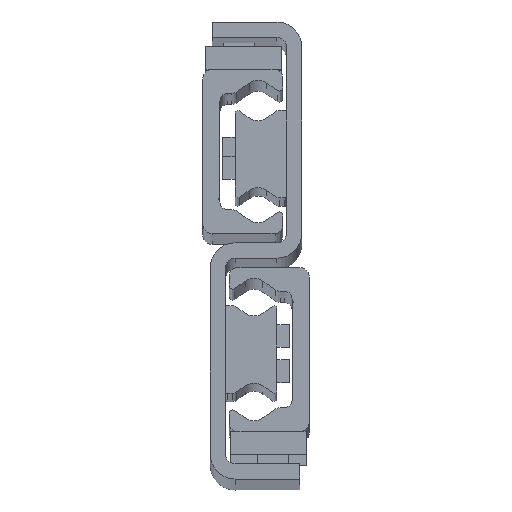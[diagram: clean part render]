
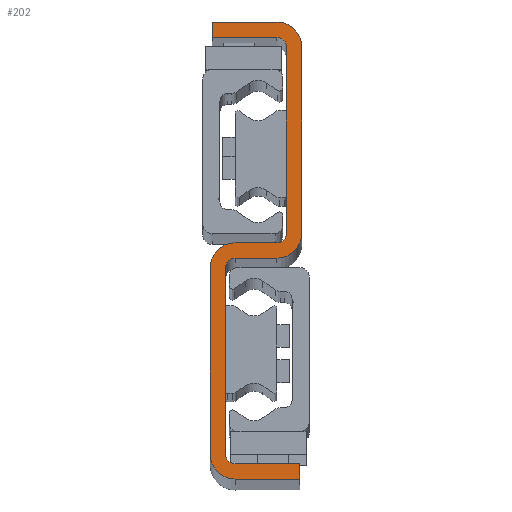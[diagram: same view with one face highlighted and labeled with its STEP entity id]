
A CAD part, top view. The second image highlights one B-rep face of the part: STEP entity #202.
In plain terms, the highlighted planar face has unit normal (0, 0, 1).
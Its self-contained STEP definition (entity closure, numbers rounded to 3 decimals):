
#202=ADVANCED_FACE('',(#729),#730,.T.);
#729=FACE_OUTER_BOUND('',#1599,.T.);
#730=PLANE('',#1600);
#1599=EDGE_LOOP('',(#3165,#3166,#3167,#3168,#3169,#3170,#3171,#3172,#3173,#3174,#3175,#3176,#3177,#3178,#3179,#3180,#3181,#3182,#3183,#3184));
#1600=AXIS2_PLACEMENT_3D('',#3185,#3186,#3187);
#3165=ORIENTED_EDGE('',*,*,#5605,.F.);
#3166=ORIENTED_EDGE('',*,*,#5663,.F.);
#3167=ORIENTED_EDGE('',*,*,#5660,.F.);
#3168=ORIENTED_EDGE('',*,*,#5657,.F.);
#3169=ORIENTED_EDGE('',*,*,#5654,.F.);
#3170=ORIENTED_EDGE('',*,*,#5651,.F.);
#3171=ORIENTED_EDGE('',*,*,#5648,.F.);
#3172=ORIENTED_EDGE('',*,*,#5645,.F.);
#3173=ORIENTED_EDGE('',*,*,#5642,.F.);
#3174=ORIENTED_EDGE('',*,*,#5639,.F.);
#3175=ORIENTED_EDGE('',*,*,#5636,.F.);
#3176=ORIENTED_EDGE('',*,*,#5633,.F.);
#3177=ORIENTED_EDGE('',*,*,#5630,.F.);
#3178=ORIENTED_EDGE('',*,*,#5627,.F.);
#3179=ORIENTED_EDGE('',*,*,#5624,.F.);
#3180=ORIENTED_EDGE('',*,*,#5621,.F.);
#3181=ORIENTED_EDGE('',*,*,#5618,.F.);
#3182=ORIENTED_EDGE('',*,*,#5615,.F.);
#3183=ORIENTED_EDGE('',*,*,#5612,.F.);
#3184=ORIENTED_EDGE('',*,*,#5609,.F.);
#3185=CARTESIAN_POINT('',(-14.,26.,1650.0));
#3186=DIRECTION('',(0.0,0.0,1.0));
#3187=DIRECTION('',(1.0,0.0,0.0));
#5605=EDGE_CURVE('',#6783,#6784,#6785,.T.);
#5609=EDGE_CURVE('',#6784,#6791,#6792,.T.);
#5612=EDGE_CURVE('',#6791,#6796,#6797,.T.);
#5615=EDGE_CURVE('',#6796,#6801,#6802,.T.);
#5618=EDGE_CURVE('',#6801,#6806,#6807,.T.);
#5621=EDGE_CURVE('',#6806,#6811,#6812,.T.);
#5624=EDGE_CURVE('',#6811,#6816,#6817,.T.);
#5627=EDGE_CURVE('',#6816,#6821,#6822,.T.);
#5630=EDGE_CURVE('',#6821,#6826,#6827,.T.);
#5633=EDGE_CURVE('',#6826,#6831,#6832,.T.);
#5636=EDGE_CURVE('',#6831,#6836,#6837,.T.);
#5639=EDGE_CURVE('',#6836,#6841,#6842,.T.);
#5642=EDGE_CURVE('',#6841,#6846,#6847,.T.);
#5645=EDGE_CURVE('',#6846,#6851,#6852,.T.);
#5648=EDGE_CURVE('',#6851,#6856,#6857,.T.);
#5651=EDGE_CURVE('',#6856,#6861,#6862,.T.);
#5654=EDGE_CURVE('',#6861,#6866,#6867,.T.);
#5657=EDGE_CURVE('',#6866,#6871,#6872,.T.);
#5660=EDGE_CURVE('',#6871,#6876,#6877,.T.);
#5663=EDGE_CURVE('',#6876,#6783,#6881,.T.);
#6783=VERTEX_POINT('',#8617);
#6784=VERTEX_POINT('',#8618);
#6785=LINE('',#8619,#8620);
#6791=VERTEX_POINT('',#8629);
#6792=CIRCLE('',#8630,2.5);
#6796=VERTEX_POINT('',#8635);
#6797=LINE('',#8636,#8637);
#6801=VERTEX_POINT('',#8643);
#6802=CIRCLE('',#8644,2.5);
#6806=VERTEX_POINT('',#8649);
#6807=LINE('',#8650,#8651);
#6811=VERTEX_POINT('',#8657);
#6812=LINE('',#8658,#8659);
#6816=VERTEX_POINT('',#8665);
#6817=LINE('',#8666,#8667);
#6821=VERTEX_POINT('',#8673);
#6822=CIRCLE('',#8674,6.5);
#6826=VERTEX_POINT('',#8679);
#6827=LINE('',#8680,#8681);
#6831=VERTEX_POINT('',#8687);
#6832=CIRCLE('',#8688,6.5);
#6836=VERTEX_POINT('',#8693);
#6837=LINE('',#8694,#8695);
#6841=VERTEX_POINT('',#8701);
#6842=CIRCLE('',#8702,2.5);
#6846=VERTEX_POINT('',#8707);
#6847=LINE('',#8708,#8709);
#6851=VERTEX_POINT('',#8715);
#6852=CIRCLE('',#8716,2.5);
#6856=VERTEX_POINT('',#8721);
#6857=LINE('',#8722,#8723);
#6861=VERTEX_POINT('',#8729);
#6862=LINE('',#8730,#8731);
#6866=VERTEX_POINT('',#8737);
#6867=LINE('',#8738,#8739);
#6871=VERTEX_POINT('',#8745);
#6872=CIRCLE('',#8746,6.5);
#6876=VERTEX_POINT('',#8751);
#6877=LINE('',#8752,#8753);
#6881=CIRCLE('',#8759,6.5);
#8617=CARTESIAN_POINT('',(-8.5,24.,1650.0));
#8618=CARTESIAN_POINT('',(-19.5,24.,1650.0));
#8619=CARTESIAN_POINT('',(-8.5,24.,1650.0));
#8620=VECTOR('',#10625,1.0);
#8629=CARTESIAN_POINT('',(-22.,21.5,1650.0));
#8630=AXIS2_PLACEMENT_3D('',#10629,#10630,#10631);
#8635=CARTESIAN_POINT('',(-22.,-27.5,1650.0));
#8636=CARTESIAN_POINT('',(-22.,-27.5,1650.0));
#8637=VECTOR('',#10636,1.0);
#8643=CARTESIAN_POINT('',(-19.5,-30.,1650.0));
#8644=AXIS2_PLACEMENT_3D('',#10639,#10640,#10641);
#8649=CARTESIAN_POINT('',(-2.5,-30.,1650.0));
#8650=CARTESIAN_POINT('',(-19.5,-30.,1650.0));
#8651=VECTOR('',#10646,1.0);
#8657=CARTESIAN_POINT('',(-2.5,-34.,1650.0));
#8658=CARTESIAN_POINT('',(-2.5,-34.,1650.0));
#8659=VECTOR('',#10649,1.0);
#8665=CARTESIAN_POINT('',(-19.5,-34.,1650.0));
#8666=CARTESIAN_POINT('',(-19.5,-34.,1650.0));
#8667=VECTOR('',#10652,1.0);
#8673=CARTESIAN_POINT('',(-26.,-27.5,1650.0));
#8674=AXIS2_PLACEMENT_3D('',#10655,#10656,#10657);
#8679=CARTESIAN_POINT('',(-26.,21.5,1650.0));
#8680=CARTESIAN_POINT('',(-26.,21.5,1650.0));
#8681=VECTOR('',#10662,1.0);
#8687=CARTESIAN_POINT('',(-19.5,28.,1650.0));
#8688=AXIS2_PLACEMENT_3D('',#10665,#10666,#10667);
#8693=CARTESIAN_POINT('',(-8.5,28.,1650.0));
#8694=CARTESIAN_POINT('',(-8.5,28.,1650.0));
#8695=VECTOR('',#10672,1.0);
#8701=CARTESIAN_POINT('',(-6.,30.5,1650.0));
#8702=AXIS2_PLACEMENT_3D('',#10675,#10676,#10677);
#8707=CARTESIAN_POINT('',(-6.,79.5,1650.0));
#8708=CARTESIAN_POINT('',(-6.,79.5,1650.0));
#8709=VECTOR('',#10682,1.0);
#8715=CARTESIAN_POINT('',(-8.5,82.,1650.0));
#8716=AXIS2_PLACEMENT_3D('',#10685,#10686,#10687);
#8721=CARTESIAN_POINT('',(-25.5,82.,1650.0));
#8722=CARTESIAN_POINT('',(-25.5,82.,1650.0));
#8723=VECTOR('',#10692,1.0);
#8729=CARTESIAN_POINT('',(-25.5,86.,1650.0));
#8730=CARTESIAN_POINT('',(-25.5,86.,1650.0));
#8731=VECTOR('',#10695,1.0);
#8737=CARTESIAN_POINT('',(-8.5,86.,1650.0));
#8738=CARTESIAN_POINT('',(-25.5,86.,1650.0));
#8739=VECTOR('',#10698,1.0);
#8745=CARTESIAN_POINT('',(-2.,79.5,1650.0));
#8746=AXIS2_PLACEMENT_3D('',#10701,#10702,#10703);
#8751=CARTESIAN_POINT('',(-2.,30.5,1650.0));
#8752=CARTESIAN_POINT('',(-2.,79.5,1650.0));
#8753=VECTOR('',#10708,1.0);
#8759=AXIS2_PLACEMENT_3D('',#10711,#10712,#10713);
#10625=DIRECTION('',(-1.0,0.,0.0));
#10629=CARTESIAN_POINT('',(-19.5,21.5,1650.0));
#10630=DIRECTION('',(0.0,0.0,1.0));
#10631=DIRECTION('',(1.0,0.0,0.0));
#10636=DIRECTION('',(-0.0,-1.0,-0.0));
#10639=CARTESIAN_POINT('',(-19.5,-27.5,1650.0));
#10640=DIRECTION('',(0.0,0.0,1.0));
#10641=DIRECTION('',(1.0,0.0,0.0));
#10646=DIRECTION('',(1.,0.,0.0));
#10649=DIRECTION('',(-0.0,-1.0,-0.0));
#10652=DIRECTION('',(-1.,0.,-0.0));
#10655=CARTESIAN_POINT('',(-19.5,-27.5,1650.0));
#10656=DIRECTION('',(0.0,0.0,-1.0));
#10657=DIRECTION('',(1.0,0.0,0.0));
#10662=DIRECTION('',(0.0,1.0,0.0));
#10665=CARTESIAN_POINT('',(-19.5,21.5,1650.0));
#10666=DIRECTION('',(0.0,0.0,-1.0));
#10667=DIRECTION('',(1.0,0.0,0.0));
#10672=DIRECTION('',(1.0,0.,0.0));
#10675=CARTESIAN_POINT('',(-8.5,30.5,1650.0));
#10676=DIRECTION('',(0.0,0.0,1.0));
#10677=DIRECTION('',(1.0,0.0,0.0));
#10682=DIRECTION('',(0.0,1.0,0.0));
#10685=CARTESIAN_POINT('',(-8.5,79.5,1650.0));
#10686=DIRECTION('',(0.0,0.0,1.0));
#10687=DIRECTION('',(1.0,0.0,0.0));
#10692=DIRECTION('',(-1.,0.,0.0));
#10695=DIRECTION('',(0.0,1.0,0.0));
#10698=DIRECTION('',(1.,0.,0.0));
#10701=CARTESIAN_POINT('',(-8.5,79.5,1650.0));
#10702=DIRECTION('',(0.0,0.0,-1.0));
#10703=DIRECTION('',(1.0,0.0,0.0));
#10708=DIRECTION('',(0.,-1.0,0.0));
#10711=CARTESIAN_POINT('',(-8.5,30.5,1650.0));
#10712=DIRECTION('',(0.0,0.0,-1.0));
#10713=DIRECTION('',(1.0,0.0,0.0));
